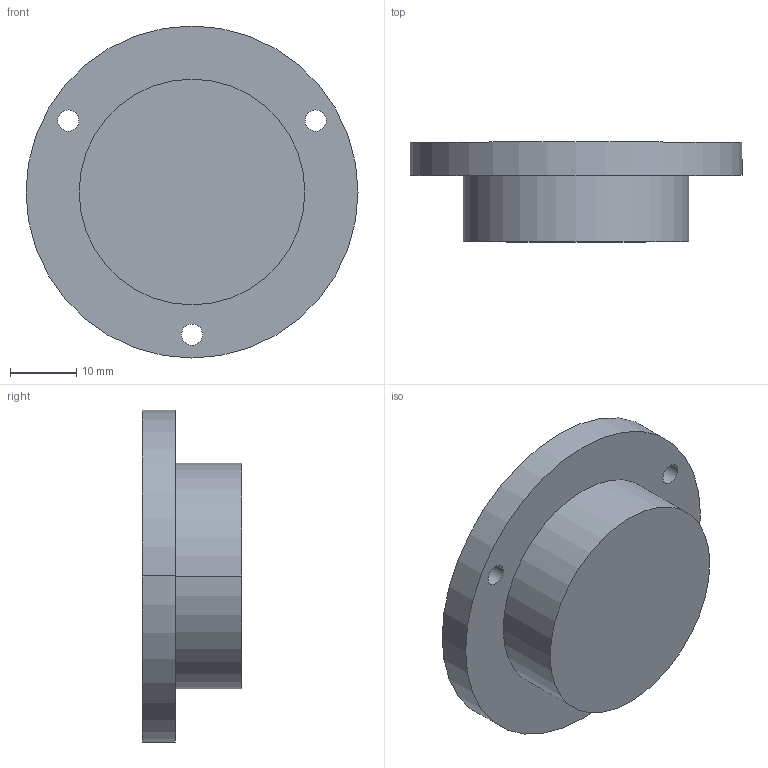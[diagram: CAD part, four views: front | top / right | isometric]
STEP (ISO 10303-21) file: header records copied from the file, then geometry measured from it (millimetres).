
FILE_DESCRIPTION (( 'STEP AP214' ), '1' );
FILE_NAME ('2277-ALS-50-K-30-B.step', '2020-03-26T09:48:30', ( '' ), ( '' ), 'SwSTEP 2.0', 'SolidWorks 2019', '' );
FILE_SCHEMA (( 'AUTOMOTIVE_DESIGN' ));
Length unit declared in the file: millimetre
Products named in the file (1): 2277-ALS-50-K-30-B
Bounding box: 50 x 15 x 50 mm (x, y, z)
Volume: 18071.2 mm3; surface area: 6022.9 mm2
Topology: 1 solids, 1 shells, 28 faces, 60 edges, 38 vertices
Faces by surface type: cylinder 18, plane 6, torus 2, cone 2
Entity records: 855 total; most frequent: DIRECTION 158, CARTESIAN_POINT 127, ORIENTED_EDGE 120, AXIS2_PLACEMENT_3D 69, EDGE_CURVE 60, CIRCLE 40, VERTEX_POINT 38, EDGE_LOOP 38
